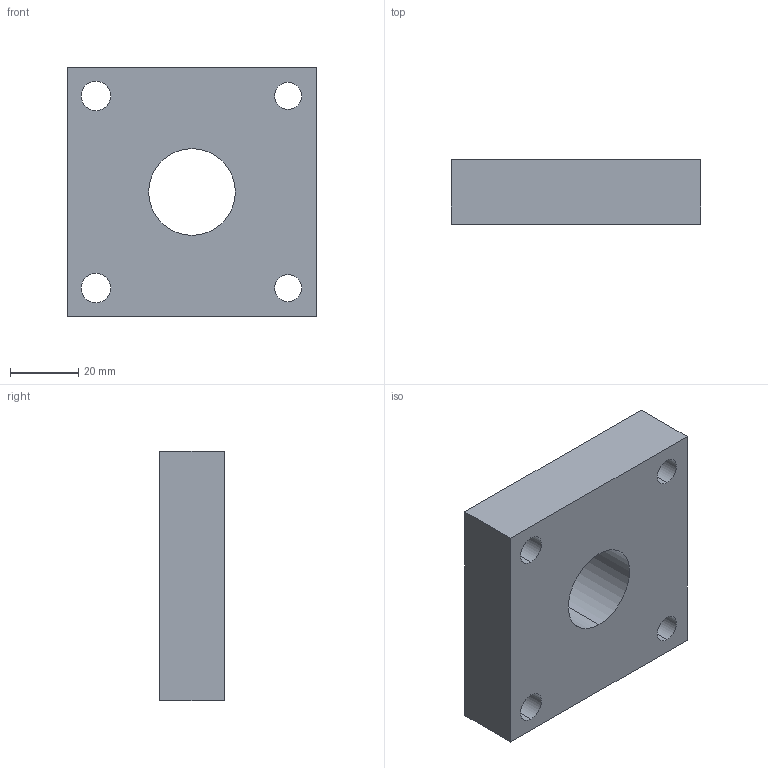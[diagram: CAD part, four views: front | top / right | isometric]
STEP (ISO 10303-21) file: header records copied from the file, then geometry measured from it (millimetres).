
FILE_DESCRIPTION (( 'STEP AP203' ), '1' );
FILE_NAME ('269-18-101.STEP', '2020-03-02T21:37:10', ( '' ), ( '' ), 'SwSTEP 2.0', 'SolidWorks 2017', '' );
FILE_SCHEMA (( 'CONFIG_CONTROL_DESIGN' ));
Length unit declared in the file: inch
Products named in the file (1): 269-18-101
Bounding box: 73.15 x 19.05 x 73.15 mm (x, y, z)
Volume: 85371.8 mm3; surface area: 18869.9 mm2
Topology: 1 solids, 1 shells, 28 faces, 66 edges, 44 vertices
Faces by surface type: cylinder 18, plane 10
Entity records: 925 total; most frequent: DIRECTION 160, CARTESIAN_POINT 139, ORIENTED_EDGE 132, EDGE_CURVE 66, AXIS2_PLACEMENT_3D 65, VERTEX_POINT 44, EDGE_LOOP 42, CIRCLE 36
